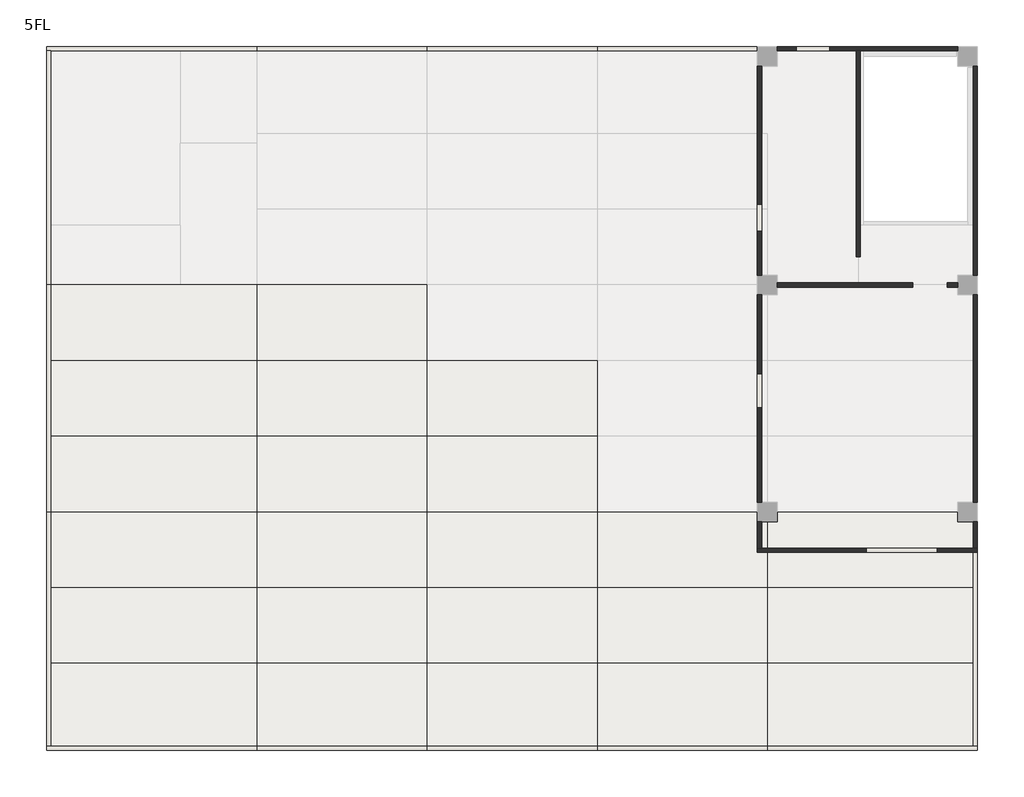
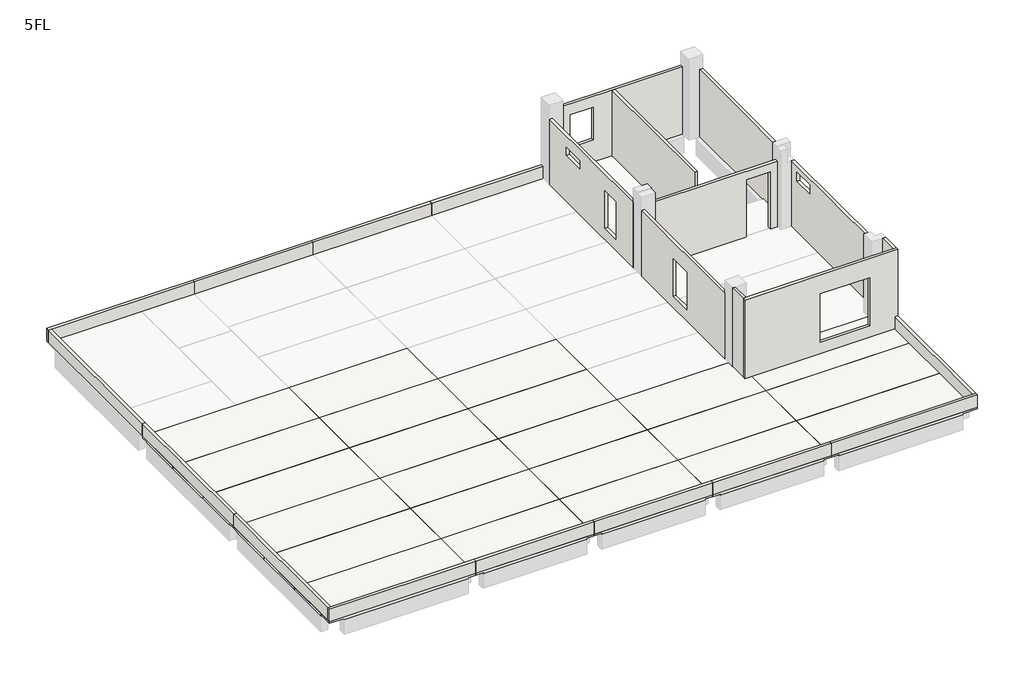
# One storey, part 1 of 3: 23 slabs, 23 walls.
"""IFC4 building model written with IfcOpenShell, lengths in millimetres."""

from ifc_helpers import new_model, si_unit, frame, origin, place, context, project, spatial, polyline, outline, extrude, faceted_brep, element, save

model = new_model("IFC4")

# Units and contexts
model_context = context("Model", 3, world=origin())
ifc_project = project(units=[si_unit("LENGTHUNIT", "METRE", prefix="MILLI")], contexts=[model_context])

# Site, building, storey
site = spatial("IfcSite", under=ifc_project)
building = spatial("IfcBuilding", under=site)
storey = spatial("IfcBuildingStorey", under=building, Name="5FL", Elevation=16400.0)

# Slabs
placement = place(None, origin())
element("IfcSlab", 1, ObjectType="S2", at=placement, inside=storey, context=model_context, shape_type="Brep", body=[
    faceted_brep([(-400.0, 2664.0, 16240.0), (7000.0, 2664.0, 16240.0), (7000.0, 2485.0, 16240.0), (7000.0, 350.0, 16240.0), (6625.0, 350.0, 16240.0), (6625.0, -50.0, 16240.0), (6625.0, -400.0, 16240.0), (350.0, -400.0, 16240.0), (350.0, -50.0, 16240.0), (350.0, 350.0, 16240.0), (-50.0, 350.0, 16240.0), (-400.0, 350.0, 16240.0), (-400.0, -400.0, 16390.0), (7000.0, -400.0, 16390.0), (7000.0, -250.0, 16390.0), (7000.0, 2664.0, 16390.0), (-400.0, 2664.0, 16390.0), (-400.0, -250.0, 16390.0), (-400.0, -400.0, 16300.0), (350.0, -400.0, 16300.0), (6625.0, -400.0, 16300.0), (7000.0, -400.0, 16300.0), (-400.0, 350.0, 16300.0), (7000.0, 2664.0, 16300.0), (7000.0, 350.0, 16300.0), (350.0, 350.0, 16300.0), (6625.0, 350.0, 16300.0)], [[[0, 1, 2, 3, 4, 5, 6, 7, 8, 9, 10, 11]], [[12, 13, 14, 15, 16, 17]], [[13, 12, 18, 19, 7, 6, 20, 21]], [[12, 17, 16, 0, 11, 22, 18]], [[1, 0, 16, 15, 23]], [[15, 14, 13, 21, 24, 3, 2, 1, 23]], [[19, 25, 9, 8, 7]], [[25, 22, 11, 10, 9]], [[25, 19, 18, 22]], [[26, 20, 6, 5, 4]], [[26, 4, 3, 24]], [[20, 26, 24, 21]]]),
])
element("IfcSlab", 2, ObjectType="S2", at=placement, inside=storey, context=model_context, shape_type="Brep", body=[
    faceted_brep([(7000.0, 5328.0, 16240.0), (7000.0, 5155.0, 16240.0), (7000.0, 2835.0, 16240.0), (7000.0, 2664.0, 16240.0), (6825.0, 2664.0, 16240.0), (-400.0, 2664.0, 16240.0), (-400.0, 5328.0, 16240.0), (7000.0, 5328.0, 16390.0), (-400.0, 5328.0, 16390.0), (-400.0, 2664.0, 16390.0), (7000.0, 2664.0, 16390.0), (7000.0, 5328.0, 16300.0), (7000.0, 2664.0, 16300.0)], [[[0, 1, 2, 3, 4, 5, 6]], [[7, 8, 9, 10]], [[3, 2, 1, 0, 11, 7, 10, 12]], [[5, 4, 3, 12, 10, 9]], [[6, 5, 9, 8]], [[0, 6, 8, 7, 11]]]),
])
element("IfcSlab", 3, ObjectType="S2", at=placement, inside=storey, context=model_context, shape_type="Brep", body=[
    faceted_brep([(7000.0, 5328.0, 16240.0), (-400.0, 5328.0, 16240.0), (-400.0, 7625.0, 16240.0), (-50.0, 7625.0, 16240.0), (350.0, 7625.0, 16240.0), (350.0, 8000.0, 16240.0), (6625.0, 8000.0, 16240.0), (6625.0, 7825.0, 16240.0), (6625.0, 7625.0, 16240.0), (6825.0, 7625.0, 16240.0), (7000.0, 7625.0, 16240.0), (7000.0, 5505.0, 16240.0), (7000.0, 5328.0, 16390.0), (7000.0, 8000.0, 16390.0), (-250.0, 8000.0, 16390.0), (-400.0, 8000.0, 16390.0), (-400.0, 5328.0, 16390.0), (7000.0, 5328.0, 16300.0), (7000.0, 7625.0, 16300.0), (7000.0, 8000.0, 16300.0), (-400.0, 8000.0, 16300.0), (-400.0, 7625.0, 16300.0), (6625.0, 8000.0, 16300.0), (350.0, 8000.0, 16300.0), (350.0, 7625.0, 16300.0), (6625.0, 7625.0, 16300.0)], [[[0, 1, 2, 3, 4, 5, 6, 7, 8, 9, 10, 11]], [[12, 13, 14, 15, 16]], [[13, 12, 17, 0, 11, 10, 18, 19]], [[1, 0, 17, 12, 16]], [[16, 15, 20, 21, 2, 1]], [[15, 14, 13, 19, 22, 6, 5, 23, 20]], [[4, 24, 23, 5]], [[21, 24, 4, 3, 2]], [[24, 21, 20, 23]], [[8, 25, 18, 10, 9]], [[25, 8, 7, 6, 22]], [[18, 25, 22, 19]]]),
])
element("IfcSlab", 4, ObjectType="S2", at=placement, inside=storey, context=model_context, shape_type="Brep", body=[
    faceted_brep([(7375.0, -400.0, 16240.0), (7375.0, -50.0, 16240.0), (7375.0, 350.0, 16240.0), (7000.0, 350.0, 16240.0), (7000.0, 2485.0, 16240.0), (13000.0, 2485.0, 16240.0), (13000.0, 350.0, 16240.0), (12625.0, 350.0, 16240.0), (12625.0, -50.0, 16240.0), (12625.0, -400.0, 16240.0), (7000.0, -400.0, 16390.0), (13000.0, -400.0, 16390.0), (13000.0, -250.0, 16390.0), (13000.0, 2664.0, 16390.0), (7000.0, 2664.0, 16390.0), (7000.0, -250.0, 16390.0), (7000.0, -400.0, 16300.0), (7375.0, -400.0, 16300.0), (12625.0, -400.0, 16300.0), (13000.0, -400.0, 16300.0), (7000.0, 2664.0, 16300.0), (7000.0, 2485.0, 16300.0), (7000.0, 350.0, 16300.0), (13000.0, 2664.0, 16300.0), (13000.0, 350.0, 16300.0), (13000.0, 2485.0, 16300.0), (7375.0, 350.0, 16300.0), (12625.0, 350.0, 16300.0), (7175.0, 2485.0, 16300.0), (12825.0, 2485.0, 16300.0)], [[[0, 1, 2, 3, 4, 5, 6, 7, 8, 9]], [[10, 11, 12, 13, 14, 15]], [[11, 10, 16, 17, 0, 9, 18, 19]], [[10, 15, 14, 20, 21, 4, 3, 22, 16]], [[14, 13, 23, 20]], [[13, 12, 11, 19, 24, 6, 5, 25, 23]], [[17, 26, 2, 1, 0]], [[2, 26, 22, 3]], [[26, 17, 16, 22]], [[27, 18, 9, 8, 7]], [[27, 7, 6, 24]], [[18, 27, 24, 19]], [[21, 28, 29, 25, 5, 4]], [[25, 29, 28, 21, 20, 23]]]),
])
element("IfcSlab", 5, ObjectType="S2", at=placement, inside=storey, context=model_context, shape_type="Brep", body=[
    faceted_brep([(13000.0, 2835.0, 16240.0), (7000.0, 2835.0, 16240.0), (7000.0, 5155.0, 16240.0), (13000.0, 5155.0, 16240.0), (13000.0, 2664.0, 16390.0), (13000.0, 5328.0, 16390.0), (7000.0, 5328.0, 16390.0), (7000.0, 2664.0, 16390.0), (13000.0, 2664.0, 16300.0), (13000.0, 2835.0, 16300.0), (13000.0, 5155.0, 16300.0), (13000.0, 5328.0, 16300.0), (7000.0, 2664.0, 16300.0), (7000.0, 5328.0, 16300.0), (7000.0, 5155.0, 16300.0), (7000.0, 2835.0, 16300.0), (12825.0, 2835.0, 16300.0), (7175.0, 2835.0, 16300.0), (7175.0, 5155.0, 16300.0), (12825.0, 5155.0, 16300.0)], [[[0, 1, 2, 3]], [[4, 5, 6, 7]], [[5, 4, 8, 9, 0, 3, 10, 11]], [[4, 7, 12, 8]], [[7, 6, 13, 14, 2, 1, 15, 12]], [[6, 5, 11, 13]], [[1, 0, 9, 16, 17, 15]], [[14, 18, 19, 10, 3, 2]], [[9, 8, 12, 15, 17, 16]], [[10, 19, 18, 14, 13, 11]]]),
])
element("IfcSlab", 6, ObjectType="S2", at=placement, inside=storey, context=model_context, shape_type="Brep", body=[
    faceted_brep([(7375.0, 7625.0, 16240.0), (7375.0, 8000.0, 16240.0), (12625.0, 8000.0, 16240.0), (12625.0, 7625.0, 16240.0), (12825.0, 7625.0, 16240.0), (13000.0, 7625.0, 16240.0), (13000.0, 5505.0, 16240.0), (7000.0, 5505.0, 16240.0), (7000.0, 7625.0, 16240.0), (7175.0, 7625.0, 16240.0), (13000.0, 5328.0, 16390.0), (13000.0, 8000.0, 16390.0), (7000.0, 8000.0, 16390.0), (7000.0, 5328.0, 16390.0), (13000.0, 5328.0, 16300.0), (13000.0, 5505.0, 16300.0), (13000.0, 7625.0, 16300.0), (13000.0, 8000.0, 16300.0), (7000.0, 5328.0, 16300.0), (7000.0, 8000.0, 16300.0), (7000.0, 7625.0, 16300.0), (7000.0, 5505.0, 16300.0), (12625.0, 8000.0, 16300.0), (7375.0, 8000.0, 16300.0), (7375.0, 7625.0, 16300.0), (12625.0, 7625.0, 16300.0), (12825.0, 5505.0, 16300.0), (7175.0, 5505.0, 16300.0)], [[[0, 1, 2, 3, 4, 5, 6, 7, 8, 9]], [[10, 11, 12, 13]], [[11, 10, 14, 15, 6, 5, 16, 17]], [[10, 13, 18, 14]], [[13, 12, 19, 20, 8, 7, 21, 18]], [[12, 11, 17, 22, 2, 1, 23, 19]], [[0, 24, 23, 1]], [[24, 0, 9, 8, 20]], [[23, 24, 20, 19]], [[3, 25, 16, 5, 4]], [[25, 3, 2, 22]], [[16, 25, 22, 17]], [[15, 26, 27, 21, 7, 6]], [[21, 27, 26, 15, 14, 18]]]),
])
element("IfcSlab", 7, ObjectType="S2", at=placement, inside=storey, context=model_context, shape_type="Brep", body=[
    faceted_brep([(13375.0, -400.0, 16240.0), (13375.0, -50.0, 16240.0), (13375.0, 350.0, 16240.0), (13000.0, 350.0, 16240.0), (13000.0, 2485.0, 16240.0), (19000.0, 2485.0, 16240.0), (19000.0, 350.0, 16240.0), (18625.0, 350.0, 16240.0), (18625.0, -50.0, 16240.0), (18625.0, -400.0, 16240.0), (13000.0, -400.0, 16390.0), (19000.0, -400.0, 16390.0), (19000.0, -250.0, 16390.0), (19000.0, 2664.0, 16390.0), (13000.0, 2664.0, 16390.0), (13000.0, -250.0, 16390.0), (13000.0, -400.0, 16300.0), (13375.0, -400.0, 16300.0), (18625.0, -400.0, 16300.0), (19000.0, -400.0, 16300.0), (13000.0, 2664.0, 16300.0), (13000.0, 2485.0, 16300.0), (13000.0, 350.0, 16300.0), (19000.0, 2664.0, 16300.0), (19000.0, 350.0, 16300.0), (19000.0, 2485.0, 16300.0), (13375.0, 350.0, 16300.0), (18625.0, 350.0, 16300.0), (13175.0, 2485.0, 16300.0), (18825.0, 2485.0, 16300.0)], [[[0, 1, 2, 3, 4, 5, 6, 7, 8, 9]], [[10, 11, 12, 13, 14, 15]], [[11, 10, 16, 17, 0, 9, 18, 19]], [[10, 15, 14, 20, 21, 4, 3, 22, 16]], [[14, 13, 23, 20]], [[13, 12, 11, 19, 24, 6, 5, 25, 23]], [[17, 26, 2, 1, 0]], [[2, 26, 22, 3]], [[26, 17, 16, 22]], [[27, 18, 9, 8, 7]], [[27, 7, 6, 24]], [[18, 27, 24, 19]], [[21, 28, 29, 25, 5, 4]], [[25, 29, 28, 21, 20, 23]]]),
])
element("IfcSlab", 8, ObjectType="S2", at=placement, inside=storey, context=model_context, shape_type="Brep", body=[
    faceted_brep([(19000.0, 2835.0, 16240.0), (13000.0, 2835.0, 16240.0), (13000.0, 5155.0, 16240.0), (19000.0, 5155.0, 16240.0), (19000.0, 2664.0, 16390.0), (19000.0, 5328.0, 16390.0), (13000.0, 5328.0, 16390.0), (13000.0, 2664.0, 16390.0), (19000.0, 2664.0, 16300.0), (19000.0, 2835.0, 16300.0), (19000.0, 5155.0, 16300.0), (19000.0, 5328.0, 16300.0), (13000.0, 2664.0, 16300.0), (13000.0, 5328.0, 16300.0), (13000.0, 5155.0, 16300.0), (13000.0, 2835.0, 16300.0), (18825.0, 2835.0, 16300.0), (13175.0, 2835.0, 16300.0), (13175.0, 5155.0, 16300.0), (18825.0, 5155.0, 16300.0)], [[[0, 1, 2, 3]], [[4, 5, 6, 7]], [[5, 4, 8, 9, 0, 3, 10, 11]], [[4, 7, 12, 8]], [[7, 6, 13, 14, 2, 1, 15, 12]], [[6, 5, 11, 13]], [[1, 0, 9, 16, 17, 15]], [[14, 18, 19, 10, 3, 2]], [[9, 8, 12, 15, 17, 16]], [[10, 19, 18, 14, 13, 11]]]),
])
element("IfcSlab", 9, ObjectType="S2", at=placement, inside=storey, context=model_context, shape_type="Brep", body=[
    faceted_brep([(13375.0, 7625.0, 16240.0), (13375.0, 7825.0, 16240.0), (13375.0, 8000.0, 16240.0), (18625.0, 8000.0, 16240.0), (18625.0, 7825.0, 16240.0), (18625.0, 7625.0, 16240.0), (18825.0, 7625.0, 16240.0), (19000.0, 7625.0, 16240.0), (19000.0, 5505.0, 16240.0), (13000.0, 5505.0, 16240.0), (13000.0, 7625.0, 16240.0), (13175.0, 7625.0, 16240.0), (19000.0, 5328.0, 16390.0), (19000.0, 8000.0, 16390.0), (13000.0, 8000.0, 16390.0), (13000.0, 5328.0, 16390.0), (19000.0, 5328.0, 16300.0), (19000.0, 5505.0, 16300.0), (19000.0, 7625.0, 16300.0), (19000.0, 8000.0, 16300.0), (13000.0, 5328.0, 16300.0), (13000.0, 8000.0, 16300.0), (13000.0, 7625.0, 16300.0), (13000.0, 5505.0, 16300.0), (18625.0, 8000.0, 16300.0), (13375.0, 8000.0, 16300.0), (13375.0, 7625.0, 16300.0), (18625.0, 7625.0, 16300.0), (18825.0, 5505.0, 16300.0), (13175.0, 5505.0, 16300.0)], [[[0, 1, 2, 3, 4, 5, 6, 7, 8, 9, 10, 11]], [[12, 13, 14, 15]], [[13, 12, 16, 17, 8, 7, 18, 19]], [[12, 15, 20, 16]], [[15, 14, 21, 22, 10, 9, 23, 20]], [[14, 13, 19, 24, 3, 2, 25, 21]], [[0, 26, 25, 2, 1]], [[26, 0, 11, 10, 22]], [[25, 26, 22, 21]], [[5, 27, 18, 7, 6]], [[27, 5, 4, 3, 24]], [[18, 27, 24, 19]], [[17, 28, 29, 23, 9, 8]], [[23, 29, 28, 17, 16, 20]]]),
])
element("IfcSlab", 10, ObjectType="S2", at=placement, inside=storey, context=model_context, shape_type="Brep", body=[
    faceted_brep([(19375.0, -400.0, 16240.0), (19375.0, -50.0, 16240.0), (19375.0, 350.0, 16240.0), (19000.0, 350.0, 16240.0), (19000.0, 2485.0, 16240.0), (25000.0, 2485.0, 16240.0), (25000.0, 350.0, 16240.0), (24625.0, 350.0, 16240.0), (24625.0, -50.0, 16240.0), (24625.0, -400.0, 16240.0), (19000.0, -400.0, 16390.0), (25000.0, -400.0, 16390.0), (25000.0, -250.0, 16390.0), (25000.0, 2664.0, 16390.0), (19000.0, 2664.0, 16390.0), (19000.0, -250.0, 16390.0), (19000.0, -400.0, 16300.0), (19375.0, -400.0, 16300.0), (24625.0, -400.0, 16300.0), (25000.0, -400.0, 16300.0), (19000.0, 2664.0, 16300.0), (19000.0, 2485.0, 16300.0), (19000.0, 350.0, 16300.0), (25000.0, 2664.0, 16300.0), (25000.0, 350.0, 16300.0), (25000.0, 2485.0, 16300.0), (19375.0, 350.0, 16300.0), (24625.0, 350.0, 16300.0), (19175.0, 2485.0, 16300.0), (24825.0, 2485.0, 16300.0)], [[[0, 1, 2, 3, 4, 5, 6, 7, 8, 9]], [[10, 11, 12, 13, 14, 15]], [[11, 10, 16, 17, 0, 9, 18, 19]], [[10, 15, 14, 20, 21, 4, 3, 22, 16]], [[14, 13, 23, 20]], [[13, 12, 11, 19, 24, 6, 5, 25, 23]], [[17, 26, 2, 1, 0]], [[2, 26, 22, 3]], [[26, 17, 16, 22]], [[27, 18, 9, 8, 7]], [[27, 7, 6, 24]], [[18, 27, 24, 19]], [[21, 28, 29, 25, 5, 4]], [[25, 29, 28, 21, 20, 23]]]),
])
element("IfcSlab", 11, ObjectType="S2", at=placement, inside=storey, context=model_context, shape_type="Brep", body=[
    faceted_brep([(25000.0, 2835.0, 16240.0), (19000.0, 2835.0, 16240.0), (19000.0, 5155.0, 16240.0), (25000.0, 5155.0, 16240.0), (25000.0, 2664.0, 16390.0), (25000.0, 5328.0, 16390.0), (19000.0, 5328.0, 16390.0), (19000.0, 2664.0, 16390.0), (25000.0, 2664.0, 16300.0), (25000.0, 2835.0, 16300.0), (25000.0, 5155.0, 16300.0), (25000.0, 5328.0, 16300.0), (19000.0, 2664.0, 16300.0), (19000.0, 5328.0, 16300.0), (19000.0, 5155.0, 16300.0), (19000.0, 2835.0, 16300.0), (24825.0, 2835.0, 16300.0), (19175.0, 2835.0, 16300.0), (19175.0, 5155.0, 16300.0), (24825.0, 5155.0, 16300.0)], [[[0, 1, 2, 3]], [[4, 5, 6, 7]], [[5, 4, 8, 9, 0, 3, 10, 11]], [[4, 7, 12, 8]], [[7, 6, 13, 14, 2, 1, 15, 12]], [[6, 5, 11, 13]], [[1, 0, 9, 16, 17, 15]], [[14, 18, 19, 10, 3, 2]], [[9, 8, 12, 15, 17, 16]], [[10, 19, 18, 14, 13, 11]]]),
])
element("IfcSlab", 12, ObjectType="S2", at=placement, inside=storey, context=model_context, shape_type="Brep", body=[
    faceted_brep([(19375.0, 7625.0, 16240.0), (19375.0, 7825.0, 16240.0), (19375.0, 8000.0, 16240.0), (24625.0, 8000.0, 16240.0), (24625.0, 7825.0, 16240.0), (24625.0, 7625.0, 16240.0), (24825.0, 7625.0, 16240.0), (25000.0, 7625.0, 16240.0), (25000.0, 5505.0, 16240.0), (19000.0, 5505.0, 16240.0), (19000.0, 7625.0, 16240.0), (19175.0, 7625.0, 16240.0), (25000.0, 5328.0, 16390.0), (25000.0, 8000.0, 16390.0), (19000.0, 8000.0, 16390.0), (19000.0, 5328.0, 16390.0), (25000.0, 5328.0, 16300.0), (25000.0, 5505.0, 16300.0), (25000.0, 7625.0, 16300.0), (25000.0, 8000.0, 16300.0), (19000.0, 5328.0, 16300.0), (19000.0, 8000.0, 16300.0), (19000.0, 7625.0, 16300.0), (19000.0, 5505.0, 16300.0), (24625.0, 8000.0, 16300.0), (19375.0, 8000.0, 16300.0), (19375.0, 7625.0, 16300.0), (24625.0, 7625.0, 16300.0), (24825.0, 5505.0, 16300.0), (19175.0, 5505.0, 16300.0)], [[[0, 1, 2, 3, 4, 5, 6, 7, 8, 9, 10, 11]], [[12, 13, 14, 15]], [[13, 12, 16, 17, 8, 7, 18, 19]], [[12, 15, 20, 16]], [[15, 14, 21, 22, 10, 9, 23, 20]], [[14, 13, 19, 24, 3, 2, 25, 21]], [[0, 26, 25, 2, 1]], [[26, 0, 11, 10, 22]], [[25, 26, 22, 21]], [[5, 27, 18, 7, 6]], [[27, 5, 4, 3, 24]], [[18, 27, 24, 19]], [[17, 28, 29, 23, 9, 8]], [[23, 29, 28, 17, 16, 20]]]),
])
element("IfcSlab", 13, ObjectType="S2", at=placement, inside=storey, context=model_context, shape_type="Brep", body=[
    faceted_brep([(25000.0, 2664.0, 16240.0), (32400.0, 2664.0, 16240.0), (32400.0, 350.0, 16240.0), (32050.0, 350.0, 16240.0), (31650.0, 350.0, 16240.0), (31650.0, -50.0, 16240.0), (31650.0, -400.0, 16240.0), (25375.0, -400.0, 16240.0), (25375.0, -50.0, 16240.0), (25375.0, 350.0, 16240.0), (25000.0, 350.0, 16240.0), (25000.0, 2485.0, 16240.0), (25000.0, -400.0, 16390.0), (32400.0, -400.0, 16390.0), (32400.0, -250.0, 16390.0), (32400.0, 2664.0, 16390.0), (25000.0, 2664.0, 16390.0), (25000.0, -250.0, 16390.0), (25000.0, -400.0, 16300.0), (25375.0, -400.0, 16300.0), (31650.0, -400.0, 16300.0), (32400.0, -400.0, 16300.0), (25000.0, 2664.0, 16300.0), (25000.0, 350.0, 16300.0), (32400.0, 350.0, 16300.0), (25375.0, 350.0, 16300.0), (31650.0, 350.0, 16300.0)], [[[0, 1, 2, 3, 4, 5, 6, 7, 8, 9, 10, 11]], [[12, 13, 14, 15, 16, 17]], [[13, 12, 18, 19, 7, 6, 20, 21]], [[12, 17, 16, 22, 0, 11, 10, 23, 18]], [[1, 0, 22, 16, 15]], [[15, 14, 13, 21, 24, 2, 1]], [[19, 25, 9, 8, 7]], [[9, 25, 23, 10]], [[25, 19, 18, 23]], [[26, 20, 6, 5, 4]], [[24, 26, 4, 3, 2]], [[20, 26, 24, 21]]]),
])
element("IfcSlab", 14, ObjectType="S2", at=placement, inside=storey, context=model_context, shape_type="Brep", body=[
    faceted_brep([(32400.0, 5328.0, 16240.0), (32400.0, 2664.0, 16240.0), (25175.0, 2664.0, 16240.0), (25000.0, 2664.0, 16240.0), (25000.0, 2835.0, 16240.0), (25000.0, 5155.0, 16240.0), (25000.0, 5328.0, 16240.0), (32400.0, 5328.0, 16390.0), (25000.0, 5328.0, 16390.0), (25000.0, 2664.0, 16390.0), (32400.0, 2664.0, 16390.0), (25000.0, 2664.0, 16300.0), (25000.0, 5328.0, 16300.0)], [[[0, 1, 2, 3, 4, 5, 6]], [[7, 8, 9, 10]], [[1, 0, 7, 10]], [[3, 2, 1, 10, 9, 11]], [[6, 5, 4, 3, 11, 9, 8, 12]], [[0, 6, 12, 8, 7]]]),
])
element("IfcSlab", 15, ObjectType="S2", at=placement, inside=storey, context=model_context, shape_type="Brep", body=[
    faceted_brep([(32400.0, 5328.0, 16240.0), (25000.0, 5328.0, 16240.0), (25000.0, 5505.0, 16240.0), (25000.0, 7625.0, 16240.0), (25175.0, 7625.0, 16240.0), (25375.0, 7625.0, 16240.0), (25375.0, 8000.0, 16240.0), (31650.0, 8000.0, 16240.0), (31650.0, 7825.0, 16240.0), (31650.0, 7625.0, 16240.0), (32050.0, 7625.0, 16240.0), (32400.0, 7625.0, 16240.0), (32400.0, 5328.0, 16390.0), (32400.0, 6580.0, 16390.0), (32400.0, 7650.0, 16390.0), (32400.0, 8000.0, 16390.0), (25000.0, 8000.0, 16390.0), (25000.0, 5328.0, 16390.0), (32400.0, 7625.0, 16300.0), (32400.0, 8000.0, 16300.0), (25000.0, 5328.0, 16300.0), (25000.0, 8000.0, 16300.0), (25000.0, 7625.0, 16300.0), (31650.0, 8000.0, 16300.0), (25375.0, 8000.0, 16300.0), (25375.0, 7625.0, 16300.0), (31650.0, 7625.0, 16300.0)], [[[0, 1, 2, 3, 4, 5, 6, 7, 8, 9, 10, 11]], [[12, 13, 14, 15, 16, 17]], [[15, 14, 13, 12, 0, 11, 18, 19]], [[1, 0, 12, 17, 20]], [[17, 16, 21, 22, 3, 2, 1, 20]], [[16, 15, 19, 23, 7, 6, 24, 21]], [[5, 25, 24, 6]], [[25, 5, 4, 3, 22]], [[24, 25, 22, 21]], [[26, 18, 11, 10, 9]], [[26, 9, 8, 7, 23]], [[18, 26, 23, 19]]]),
])
element("IfcSlab", 16, ObjectType="S2", at=placement, inside=storey, context=model_context, shape_type="Brep", body=[
    faceted_brep([(-400.0, 10664.0, 16240.0), (7000.0, 10664.0, 16240.0), (7000.0, 10575.0, 16240.0), (7000.0, 8375.0, 16240.0), (6625.0, 8375.0, 16240.0), (6625.0, 8175.0, 16240.0), (6625.0, 8000.0, 16240.0), (350.0, 8000.0, 16240.0), (350.0, 8375.0, 16240.0), (-50.0, 8375.0, 16240.0), (-400.0, 8375.0, 16240.0), (-400.0, 8000.0, 16390.0), (-250.0, 8000.0, 16390.0), (7000.0, 8000.0, 16390.0), (7000.0, 10664.0, 16390.0), (-400.0, 10664.0, 16390.0), (-400.0, 8000.0, 16300.0), (350.0, 8000.0, 16300.0), (6625.0, 8000.0, 16300.0), (7000.0, 8000.0, 16300.0), (-400.0, 8375.0, 16300.0), (7000.0, 10664.0, 16300.0), (7000.0, 8375.0, 16300.0), (350.0, 8375.0, 16300.0), (6625.0, 8375.0, 16300.0)], [[[0, 1, 2, 3, 4, 5, 6, 7, 8, 9, 10]], [[11, 12, 13, 14, 15]], [[13, 12, 11, 16, 17, 7, 6, 18, 19]], [[11, 15, 0, 10, 20, 16]], [[1, 0, 15, 14, 21]], [[14, 13, 19, 22, 3, 2, 1, 21]], [[23, 8, 7, 17]], [[23, 20, 10, 9, 8]], [[20, 23, 17, 16]], [[4, 24, 18, 6, 5]], [[24, 4, 3, 22]], [[18, 24, 22, 19]]]),
])
element("IfcSlab", 17, ObjectType="S2", at=placement, inside=storey, context=model_context, shape_type="Brep", body=[
    faceted_brep([(7000.0, 13328.0, 16240.0), (7000.0, 13325.0, 16240.0), (7000.0, 10925.0, 16240.0), (7000.0, 10664.0, 16240.0), (6825.0, 10664.0, 16240.0), (-400.0, 10664.0, 16240.0), (-400.0, 13328.0, 16240.0), (7000.0, 13328.0, 16390.0), (-400.0, 13328.0, 16390.0), (-400.0, 10664.0, 16390.0), (7000.0, 10664.0, 16390.0), (7000.0, 13328.0, 16300.0), (7000.0, 10664.0, 16300.0)], [[[0, 1, 2, 3, 4, 5, 6]], [[7, 8, 9, 10]], [[3, 2, 1, 0, 11, 7, 10, 12]], [[5, 4, 3, 12, 10, 9]], [[6, 5, 9, 8]], [[0, 6, 8, 7, 11]]]),
])
element("IfcSlab", 18, ObjectType="S2", at=placement, inside=storey, context=model_context, shape_type="Brep", body=[
    faceted_brep([(7000.0, 13328.0, 16240.0), (-400.0, 13328.0, 16240.0), (-400.0, 15625.0, 16240.0), (-50.0, 15625.0, 16240.0), (350.0, 15625.0, 16240.0), (350.0, 16000.0, 16240.0), (4319.0, 16000.0, 16240.0), (6625.0, 16000.0, 16240.0), (6625.0, 15825.0, 16240.0), (6625.0, 15625.0, 16240.0), (6825.0, 15625.0, 16240.0), (7000.0, 15625.0, 16240.0), (7000.0, 13675.0, 16240.0), (7000.0, 13328.0, 16390.0), (7000.0, 16000.0, 16390.0), (4319.0, 16000.0, 16390.0), (-250.0, 16000.0, 16390.0), (-400.0, 16000.0, 16390.0), (-400.0, 13328.0, 16390.0), (7000.0, 13328.0, 16300.0), (7000.0, 15625.0, 16300.0), (7000.0, 16000.0, 16300.0), (-400.0, 16000.0, 16300.0), (-400.0, 15625.0, 16300.0), (6625.0, 16000.0, 16300.0), (350.0, 16000.0, 16300.0), (350.0, 15625.0, 16300.0), (6625.0, 15625.0, 16300.0)], [[[0, 1, 2, 3, 4, 5, 6, 7, 8, 9, 10, 11, 12]], [[13, 14, 15, 16, 17, 18]], [[14, 13, 19, 0, 12, 11, 20, 21]], [[1, 0, 19, 13, 18]], [[18, 17, 22, 23, 2, 1]], [[17, 16, 15, 14, 21, 24, 7, 6, 5, 25, 22]], [[4, 26, 25, 5]], [[23, 26, 4, 3, 2]], [[26, 23, 22, 25]], [[9, 27, 20, 11, 10]], [[27, 9, 8, 7, 24]], [[20, 27, 24, 21]]]),
])
element("IfcSlab", 19, ObjectType="S2", at=placement, inside=storey, context=model_context, shape_type="Brep", body=[
    faceted_brep([(7375.0, 8000.0, 16240.0), (7375.0, 8175.0, 16240.0), (7375.0, 8375.0, 16240.0), (7175.0, 8375.0, 16240.0), (7000.0, 8375.0, 16240.0), (7000.0, 10575.0, 16240.0), (13000.0, 10575.0, 16240.0), (13000.0, 8375.0, 16240.0), (12625.0, 8375.0, 16240.0), (12625.0, 8175.0, 16240.0), (12625.0, 8000.0, 16240.0), (7000.0, 8000.0, 16390.0), (13000.0, 8000.0, 16390.0), (13000.0, 10664.0, 16390.0), (7000.0, 10664.0, 16390.0), (7000.0, 8000.0, 16300.0), (7375.0, 8000.0, 16300.0), (12625.0, 8000.0, 16300.0), (13000.0, 8000.0, 16300.0), (7000.0, 10664.0, 16300.0), (7000.0, 10575.0, 16300.0), (7000.0, 8375.0, 16300.0), (13000.0, 10664.0, 16300.0), (13000.0, 8375.0, 16300.0), (13000.0, 10575.0, 16300.0), (7375.0, 8375.0, 16300.0), (12625.0, 8375.0, 16300.0), (7175.0, 10575.0, 16300.0), (12825.0, 10575.0, 16300.0)], [[[0, 1, 2, 3, 4, 5, 6, 7, 8, 9, 10]], [[11, 12, 13, 14]], [[12, 11, 15, 16, 0, 10, 17, 18]], [[11, 14, 19, 20, 5, 4, 21, 15]], [[14, 13, 22, 19]], [[13, 12, 18, 23, 7, 6, 24, 22]], [[25, 2, 1, 0, 16]], [[2, 25, 21, 4, 3]], [[25, 16, 15, 21]], [[8, 26, 17, 10, 9]], [[26, 8, 7, 23]], [[17, 26, 23, 18]], [[20, 27, 28, 24, 6, 5]], [[24, 28, 27, 20, 19, 22]]]),
])
element("IfcSlab", 20, ObjectType="S2", at=placement, inside=storey, context=model_context, shape_type="Brep", body=[
    faceted_brep([(13000.0, 10925.0, 16240.0), (7000.0, 10925.0, 16240.0), (7000.0, 13325.0, 16240.0), (13000.0, 13325.0, 16240.0), (13000.0, 10664.0, 16390.0), (13000.0, 13328.0, 16390.0), (7000.0, 13328.0, 16390.0), (7000.0, 10664.0, 16390.0), (13000.0, 10664.0, 16300.0), (13000.0, 10925.0, 16300.0), (13000.0, 13325.0, 16300.0), (13000.0, 13328.0, 16300.0), (7000.0, 10664.0, 16300.0), (7000.0, 13328.0, 16300.0), (7000.0, 13325.0, 16300.0), (7000.0, 10925.0, 16300.0), (12825.0, 10925.0, 16300.0), (7175.0, 10925.0, 16300.0), (7175.0, 13325.0, 16300.0), (12825.0, 13325.0, 16300.0)], [[[0, 1, 2, 3]], [[4, 5, 6, 7]], [[5, 4, 8, 9, 0, 3, 10, 11]], [[4, 7, 12, 8]], [[7, 6, 13, 14, 2, 1, 15, 12]], [[6, 5, 11, 13]], [[1, 0, 9, 16, 17, 15]], [[14, 18, 19, 10, 3, 2]], [[9, 8, 12, 15, 17, 16]], [[10, 19, 18, 14, 13, 11]]]),
])
element("IfcSlab", 21, ObjectType="S2", at=placement, inside=storey, context=model_context, shape_type="Brep", body=[
    faceted_brep([(7375.0, 15625.0, 16240.0), (7375.0, 16000.0, 16240.0), (12625.0, 16000.0, 16240.0), (12625.0, 15625.0, 16240.0), (12825.0, 15625.0, 16240.0), (13000.0, 15625.0, 16240.0), (13000.0, 13675.0, 16240.0), (7000.0, 13675.0, 16240.0), (7000.0, 15625.0, 16240.0), (7175.0, 15625.0, 16240.0), (13000.0, 13328.0, 16390.0), (13000.0, 16000.0, 16390.0), (7000.0, 16000.0, 16390.0), (7000.0, 13328.0, 16390.0), (13000.0, 13328.0, 16300.0), (13000.0, 13675.0, 16300.0), (13000.0, 15625.0, 16300.0), (13000.0, 16000.0, 16300.0), (7000.0, 13328.0, 16300.0), (7000.0, 16000.0, 16300.0), (7000.0, 15625.0, 16300.0), (7000.0, 13675.0, 16300.0), (12625.0, 16000.0, 16300.0), (7375.0, 16000.0, 16300.0), (7375.0, 15625.0, 16300.0), (12625.0, 15625.0, 16300.0), (12825.0, 13675.0, 16300.0), (7175.0, 13675.0, 16300.0)], [[[0, 1, 2, 3, 4, 5, 6, 7, 8, 9]], [[10, 11, 12, 13]], [[11, 10, 14, 15, 6, 5, 16, 17]], [[10, 13, 18, 14]], [[13, 12, 19, 20, 8, 7, 21, 18]], [[12, 11, 17, 22, 2, 1, 23, 19]], [[0, 24, 23, 1]], [[24, 0, 9, 8, 20]], [[23, 24, 20, 19]], [[3, 25, 16, 5, 4]], [[25, 3, 2, 22]], [[16, 25, 22, 17]], [[15, 26, 27, 21, 7, 6]], [[21, 27, 26, 15, 14, 18]]]),
])
element("IfcSlab", 22, ObjectType="S2", at=placement, inside=storey, context=model_context, shape_type="Brep", body=[
    faceted_brep([(13375.0, 8000.0, 16240.0), (13375.0, 8175.0, 16240.0), (13375.0, 8375.0, 16240.0), (13175.0, 8375.0, 16240.0), (13000.0, 8375.0, 16240.0), (13000.0, 10575.0, 16240.0), (19000.0, 10575.0, 16240.0), (19000.0, 8375.0, 16240.0), (18625.0, 8375.0, 16240.0), (18625.0, 8175.0, 16240.0), (18625.0, 8000.0, 16240.0), (13000.0, 8000.0, 16390.0), (19000.0, 8000.0, 16390.0), (19000.0, 10664.0, 16390.0), (13000.0, 10664.0, 16390.0), (13000.0, 8000.0, 16300.0), (13375.0, 8000.0, 16300.0), (18625.0, 8000.0, 16300.0), (19000.0, 8000.0, 16300.0), (13000.0, 10664.0, 16300.0), (13000.0, 10575.0, 16300.0), (13000.0, 8375.0, 16300.0), (19000.0, 10664.0, 16300.0), (19000.0, 8375.0, 16300.0), (19000.0, 10575.0, 16300.0), (13375.0, 8375.0, 16300.0), (18625.0, 8375.0, 16300.0), (13175.0, 10575.0, 16300.0), (18825.0, 10575.0, 16300.0)], [[[0, 1, 2, 3, 4, 5, 6, 7, 8, 9, 10]], [[11, 12, 13, 14]], [[12, 11, 15, 16, 0, 10, 17, 18]], [[11, 14, 19, 20, 5, 4, 21, 15]], [[14, 13, 22, 19]], [[13, 12, 18, 23, 7, 6, 24, 22]], [[25, 2, 1, 0, 16]], [[2, 25, 21, 4, 3]], [[25, 16, 15, 21]], [[8, 26, 17, 10, 9]], [[26, 8, 7, 23]], [[17, 26, 23, 18]], [[20, 27, 28, 24, 6, 5]], [[24, 28, 27, 20, 19, 22]]]),
])
element("IfcSlab", 23, ObjectType="S2", at=placement, inside=storey, context=model_context, shape_type="Brep", body=[
    faceted_brep([(19000.0, 10925.0, 16240.0), (13000.0, 10925.0, 16240.0), (13000.0, 13325.0, 16240.0), (19000.0, 13325.0, 16240.0), (19000.0, 10664.0, 16390.0), (19000.0, 13328.0, 16390.0), (13000.0, 13328.0, 16390.0), (13000.0, 10664.0, 16390.0), (19000.0, 10664.0, 16300.0), (19000.0, 10925.0, 16300.0), (19000.0, 13325.0, 16300.0), (19000.0, 13328.0, 16300.0), (13000.0, 10664.0, 16300.0), (13000.0, 13328.0, 16300.0), (13000.0, 13325.0, 16300.0), (13000.0, 10925.0, 16300.0), (18825.0, 10925.0, 16300.0), (13175.0, 10925.0, 16300.0), (13175.0, 13325.0, 16300.0), (18825.0, 13325.0, 16300.0)], [[[0, 1, 2, 3]], [[4, 5, 6, 7]], [[5, 4, 8, 9, 0, 3, 10, 11]], [[4, 7, 12, 8]], [[7, 6, 13, 14, 2, 1, 15, 12]], [[6, 5, 11, 13]], [[1, 0, 9, 16, 17, 15]], [[14, 18, 19, 10, 3, 2]], [[9, 8, 12, 15, 17, 16]], [[10, 19, 18, 14, 13, 11]]]),
])

# Walls
element("IfcWall", 24, ObjectType="EW15", at=placement, inside=storey, context=model_context, shape_type="Brep", body=[
    faceted_brep([(25350.0, 24400.0, 16390.0), (25350.0, 24400.0, 19900.0), (31700.0, 24400.0, 19900.0), (31700.0, 24400.0, 16300.0), (31650.0, 24400.0, 16300.0), (28374.0, 24400.0, 16300.0), (28374.0, 24400.0, 16390.0), (27190.0, 24400.0, 19320.0), (26010.0, 24400.0, 19320.0), (26010.0, 24400.0, 17565.0), (27190.0, 24400.0, 17565.0), (25350.0, 24250.0, 19900.0), (25350.0, 24250.0, 16390.0), (28125.0, 24250.0, 16390.0), (28275.0, 24250.0, 16390.0), (28374.0, 24250.0, 16390.0), (28374.0, 24250.0, 16300.0), (31700.0, 24250.0, 16300.0), (31700.0, 24250.0, 19900.0), (28275.0, 24250.0, 19900.0), (28125.0, 24250.0, 19900.0), (26010.0, 24250.0, 19320.0), (27190.0, 24250.0, 19320.0), (27190.0, 24250.0, 17565.0), (26010.0, 24250.0, 17565.0)], [[[0, 1, 2, 3, 4, 5, 6], [7, 8, 9, 10]], [[11, 12, 13, 14, 15, 16, 17, 18, 19, 20], [21, 22, 23, 24]], [[16, 5, 4, 3, 17]], [[11, 1, 0, 12]], [[1, 11, 20, 19, 18, 2]], [[6, 15, 14, 13, 12, 0]], [[15, 6, 5, 16]], [[3, 2, 18, 17]], [[7, 22, 21, 8]], [[9, 24, 23, 10]], [[22, 7, 10, 23]], [[8, 21, 24, 9]]]),
])
element("IfcWall", 25, ObjectType="EW15", at=placement, inside=storey, context=model_context, shape_type="Brep", body=[
    faceted_brep([(32250.0, 16350.0, 19900.0), (32250.0, 23700.0, 19900.0), (32250.0, 23700.0, 16300.0), (32250.0, 18100.0, 16300.0), (32250.0, 18100.0, 16390.0), (32250.0, 16350.0, 16390.0), (32400.0, 23700.0, 19900.0), (32400.0, 16350.0, 19900.0), (32400.0, 16350.0, 16390.0), (32400.0, 18100.0, 16390.0), (32400.0, 18100.0, 16300.0), (32400.0, 23650.0, 16300.0), (32400.0, 23700.0, 16300.0)], [[[0, 1, 2, 3, 4, 5]], [[6, 7, 8, 9, 10, 11, 12]], [[2, 12, 11, 10, 3]], [[7, 0, 5, 8]], [[1, 0, 7, 6]], [[2, 1, 6, 12]], [[4, 9, 8, 5]], [[9, 4, 3, 10]]]),
])
element("IfcWall", 26, ObjectType="EW15", at=placement, inside=storey, context=model_context, shape_type="Brep", body=[
    faceted_brep([(32400.0, 6730.0, 16400.0), (32250.0, 6730.0, 16400.0), (24800.0, 6730.0, 16400.0), (24650.0, 6730.0, 16400.0), (24650.0, 6730.0, 20600.0), (24800.0, 6730.0, 20600.0), (32250.0, 6730.0, 20600.0), (32400.0, 6730.0, 20600.0), (30985.0, 6730.0, 19585.0), (28485.0, 6730.0, 19585.0), (28485.0, 6730.0, 17000.0), (30985.0, 6730.0, 17000.0), (24650.0, 6580.0, 16400.0), (32400.0, 6580.0, 16400.0), (32400.0, 6580.0, 17050.0), (32400.0, 6580.0, 20600.0), (24650.0, 6580.0, 20600.0), (28485.0, 6580.0, 19585.0), (30985.0, 6580.0, 19585.0), (30985.0, 6580.0, 17000.0), (28485.0, 6580.0, 17000.0)], [[[0, 1, 2, 3, 4, 5, 6, 7], [8, 9, 10, 11]], [[12, 13, 14, 15, 16], [17, 18, 19, 20]], [[3, 2, 1, 0, 13, 12]], [[7, 6, 5, 4, 16, 15]], [[4, 3, 12, 16]], [[0, 7, 15, 14, 13]], [[8, 18, 17, 9]], [[10, 20, 19, 11]], [[18, 8, 11, 19]], [[9, 17, 20, 10]]]),
])
element("IfcWall", 27, ObjectType="EW15", at=placement, inside=storey, context=model_context, shape_type="SweptSolid", body=[
    extrude(outline(polyline([(23700.0, 19900.0), (23700.0, 16400.0), (16350.0, 16400.0), (16350.0, 19900.0), (23700.0, 19900.0)]), holes=[polyline([(18850.0, 19000.0), (17900.0, 19000.0), (17900.0, 17000.0), (18850.0, 17000.0), (18850.0, 19000.0)]), polyline([(22225.0, 19285.0), (21045.0, 19285.0), (21045.0, 18865.0), (22225.0, 18865.0), (22225.0, 19285.0)])]), frame((24650.0, 0.0, 0.0), z_axis=(1.0, 0.0, 0.0), x_axis=(0.0, 1.0, 0.0)), (0.0, 0.0, 1.0), 150.0),
])
element("IfcWall", 28, ObjectType="EW15", at=placement, inside=storey, context=model_context, shape_type="SweptSolid", body=[
    extrude(outline(polyline([(8350.0, 16400.0), (8350.0, 19900.0), (15650.0, 19900.0), (15650.0, 16400.0), (8350.0, 16400.0)]), holes=[polyline([(12865.0, 19000.0), (11665.0, 19000.0), (11665.0, 17000.0), (12865.0, 17000.0), (12865.0, 19000.0)])]), frame((24650.0, 0.0, 0.0), z_axis=(1.0, 0.0, 0.0), x_axis=(0.0, 1.0, 0.0)), (0.0, 0.0, 1.0), 150.0),
])
element("IfcWall", 29, ObjectType="EW15", at=placement, inside=storey, context=model_context, shape_type="Brep", body=[
    faceted_brep([(32250.0, 8350.0, 19900.0), (32250.0, 15650.0, 19900.0), (32250.0, 15650.0, 16390.0), (32250.0, 8350.0, 16390.0), (32250.0, 15177.5, 19570.0), (32250.0, 14057.5, 19570.0), (32250.0, 14057.5, 19085.0), (32250.0, 15177.5, 19085.0), (32400.0, 15650.0, 19900.0), (32400.0, 8350.0, 19900.0), (32400.0, 8350.0, 16390.0), (32400.0, 10664.0, 16390.0), (32400.0, 13328.0, 16390.0), (32400.0, 15650.0, 16390.0), (32400.0, 14057.5, 19570.0), (32400.0, 15177.5, 19570.0), (32400.0, 15177.5, 19085.0), (32400.0, 14057.5, 19085.0)], [[[0, 1, 2, 3], [4, 5, 6, 7]], [[8, 9, 10, 11, 12, 13], [14, 15, 16, 17]], [[9, 0, 3, 10]], [[1, 0, 9, 8]], [[1, 8, 13, 2]], [[2, 13, 12, 11, 10, 3]], [[4, 15, 14, 5]], [[6, 17, 16, 7]], [[15, 4, 7, 16]], [[5, 14, 17, 6]]]),
])
element("IfcWall", 30, ObjectType="EW15", at=placement, inside=storey, context=model_context, shape_type="SweptSolid", body=[
    extrude(outline(polyline([(24650.0, 6730.0), (24650.0, 7650.0), (24800.0, 7650.0), (24800.0, 6730.0), (24650.0, 6730.0)])), frame((0.0, 0.0, 16400.0), z_axis=(0.0, 0.0, 1.0), x_axis=(1.0, 0.0, 0.0)), (0.0, 0.0, 1.0), 4200.0),
])
element("IfcWall", 31, ObjectType="EW15", at=placement, inside=storey, context=model_context, shape_type="SweptSolid", body=[
    extrude(outline(polyline([(32250.0, 6730.0), (32250.0, 7650.0), (32400.0, 7650.0), (32400.0, 6730.0), (32250.0, 6730.0)])), frame((0.0, 0.0, 16400.0), z_axis=(0.0, 0.0, 1.0), x_axis=(1.0, 0.0, 0.0)), (0.0, 0.0, 1.0), 4200.0),
])
element("IfcWall", 32, ObjectType="W15", at=placement, inside=storey, context=model_context, shape_type="SweptSolid", body=[
    extrude(outline(polyline([(19450.0, 30125.0), (19450.0, 31335.0), (16390.0, 31335.0), (16390.0, 31700.0), (19900.0, 31700.0), (19900.0, 25350.0), (16390.0, 25350.0), (16390.0, 30125.0), (19450.0, 30125.0)])), frame((0.0, 15925.0, 0.0), z_axis=(0.0, 1.0, 0.0), x_axis=(0.0, 0.0, 1.0)), (0.0, 0.0, 1.0), 150.0),
])
element("IfcWall", 33, ObjectType="W15", at=placement, inside=storey, context=model_context, shape_type="SweptSolid", body=[
    extrude(outline(polyline([(28125.0, 17000.0), (28125.0, 24250.0), (28275.0, 24250.0), (28275.0, 17000.0), (28125.0, 17000.0)])), frame((0.0, 0.0, 16390.0), z_axis=(0.0, 0.0, 1.0), x_axis=(1.0, 0.0, 0.0)), (0.0, 0.0, 1.0), 3510.0),
])
element("IfcWall", 34, ObjectType="W15", at=placement, inside=storey, context=model_context, shape_type="Brep", body=[
    faceted_brep([(-400.0, -250.0, 17050.0), (-250.0, -250.0, 17050.0), (7000.0, -250.0, 17050.0), (7000.0, -250.0, 16390.0), (-250.0, -250.0, 16390.0), (-400.0, -250.0, 16390.0), (7000.0, -400.0, 17050.0), (-400.0, -400.0, 17050.0), (-400.0, -400.0, 16390.0), (7000.0, -400.0, 16390.0)], [[[0, 1, 2, 3, 4, 5]], [[6, 7, 8, 9]], [[2, 1, 0, 7, 6]], [[2, 6, 9, 3]], [[7, 0, 5, 8]], [[5, 4, 3, 9, 8]]]),
])
element("IfcWall", 35, ObjectType="W15", at=placement, inside=storey, context=model_context, shape_type="SweptSolid", body=[
    extrude(outline(polyline([(7000.0, -250.0), (13000.0, -250.0), (13000.0, -400.0), (7000.0, -400.0), (7000.0, -250.0)])), frame((0.0, 0.0, 16390.0), z_axis=(0.0, 0.0, 1.0), x_axis=(1.0, 0.0, 0.0)), (0.0, 0.0, 1.0), 660.0),
])
element("IfcWall", 36, ObjectType="W15", at=placement, inside=storey, context=model_context, shape_type="SweptSolid", body=[
    extrude(outline(polyline([(13000.0, -250.0), (19000.0, -250.0), (19000.0, -400.0), (13000.0, -400.0), (13000.0, -250.0)])), frame((0.0, 0.0, 16390.0), z_axis=(0.0, 0.0, 1.0), x_axis=(1.0, 0.0, 0.0)), (0.0, 0.0, 1.0), 660.0),
])
element("IfcWall", 37, ObjectType="W15", at=placement, inside=storey, context=model_context, shape_type="SweptSolid", body=[
    extrude(outline(polyline([(19000.0, -250.0), (25000.0, -250.0), (25000.0, -400.0), (19000.0, -400.0), (19000.0, -250.0)])), frame((0.0, 0.0, 16390.0), z_axis=(0.0, 0.0, 1.0), x_axis=(1.0, 0.0, 0.0)), (0.0, 0.0, 1.0), 660.0),
])
element("IfcWall", 38, ObjectType="W15", at=placement, inside=storey, context=model_context, shape_type="Brep", body=[
    faceted_brep([(25000.0, -250.0, 17050.0), (32250.0, -250.0, 17050.0), (32400.0, -250.0, 17050.0), (32400.0, -250.0, 16390.0), (32250.0, -250.0, 16390.0), (25000.0, -250.0, 16390.0), (32400.0, -400.0, 17050.0), (25000.0, -400.0, 17050.0), (25000.0, -400.0, 16390.0), (32400.0, -400.0, 16390.0)], [[[0, 1, 2, 3, 4, 5]], [[6, 7, 8, 9]], [[7, 0, 5, 8]], [[2, 1, 0, 7, 6]], [[2, 6, 9, 3]], [[5, 4, 3, 9, 8]]]),
])
element("IfcWall", 39, ObjectType="W15", at=placement, inside=storey, context=model_context, shape_type="Brep", body=[
    faceted_brep([(-400.0, 24400.0, 17050.0), (7000.0, 24400.0, 17050.0), (7000.0, 24400.0, 16390.0), (4319.0, 24400.0, 16390.0), (-400.0, 24400.0, 16390.0), (7000.0, 24250.0, 17050.0), (-250.0, 24250.0, 17050.0), (-400.0, 24250.0, 17050.0), (-400.0, 24250.0, 16390.0), (-250.0, 24250.0, 16390.0), (7000.0, 24250.0, 16390.0)], [[[0, 1, 2, 3, 4]], [[5, 6, 7, 8, 9, 10]], [[1, 0, 7, 6, 5]], [[1, 5, 10, 2]], [[7, 0, 4, 8]], [[2, 10, 9, 8, 4, 3]]]),
])
element("IfcWall", 40, ObjectType="W15", at=placement, inside=storey, context=model_context, shape_type="SweptSolid", body=[
    extrude(outline(polyline([(7000.0, 24400.0), (13000.0, 24400.0), (13000.0, 24250.0), (7000.0, 24250.0), (7000.0, 24400.0)])), frame((0.0, 0.0, 16390.0), z_axis=(0.0, 0.0, 1.0), x_axis=(1.0, 0.0, 0.0)), (0.0, 0.0, 1.0), 660.0),
])
element("IfcWall", 41, ObjectType="W15", at=placement, inside=storey, context=model_context, shape_type="SweptSolid", body=[
    extrude(outline(polyline([(13000.0, 24400.0), (19000.0, 24400.0), (19000.0, 24250.0), (13000.0, 24250.0), (13000.0, 24400.0)])), frame((0.0, 0.0, 16390.0), z_axis=(0.0, 0.0, 1.0), x_axis=(1.0, 0.0, 0.0)), (0.0, 0.0, 1.0), 660.0),
])
element("IfcWall", 42, ObjectType="W15", at=placement, inside=storey, context=model_context, shape_type="Brep", body=[
    faceted_brep([(-400.0, -250.0, 17050.0), (-400.0, 8000.0, 17050.0), (-400.0, 8000.0, 16390.0), (-400.0, 5328.0, 16390.0), (-400.0, 2664.0, 16390.0), (-400.0, -250.0, 16390.0), (-250.0, 8000.0, 17050.0), (-250.0, -250.0, 17050.0), (-250.0, -250.0, 16390.0), (-250.0, 8000.0, 16390.0)], [[[0, 1, 2, 3, 4, 5]], [[6, 7, 8, 9]], [[1, 0, 7, 6]], [[1, 6, 9, 2]], [[7, 0, 5, 8]], [[2, 9, 8, 5, 4, 3]]]),
])
element("IfcWall", 43, ObjectType="W15", at=placement, inside=storey, context=model_context, shape_type="Brep", body=[
    faceted_brep([(-400.0, 8000.0, 17050.0), (-400.0, 16000.0, 17050.0), (-400.0, 16000.0, 16390.0), (-400.0, 13328.0, 16390.0), (-400.0, 10664.0, 16390.0), (-400.0, 8000.0, 16390.0), (-250.0, 16000.0, 17050.0), (-250.0, 8000.0, 17050.0), (-250.0, 8000.0, 16390.0), (-250.0, 16000.0, 16390.0)], [[[0, 1, 2, 3, 4, 5]], [[6, 7, 8, 9]], [[7, 0, 5, 8]], [[1, 0, 7, 6]], [[1, 6, 9, 2]], [[2, 9, 8, 5, 4, 3]]]),
])
element("IfcWall", 44, ObjectType="W15", at=placement, inside=storey, context=model_context, shape_type="Brep", body=[
    faceted_brep([(-400.0, 16000.0, 17050.0), (-400.0, 24250.0, 17050.0), (-400.0, 24250.0, 16390.0), (-400.0, 18100.0, 16390.0), (-400.0, 16000.0, 16390.0), (-250.0, 24250.0, 17050.0), (-250.0, 16000.0, 17050.0), (-250.0, 16000.0, 16390.0), (-250.0, 24250.0, 16390.0)], [[[0, 1, 2, 3, 4]], [[5, 6, 7, 8]], [[6, 0, 4, 7]], [[1, 0, 6, 5]], [[1, 5, 8, 2]], [[2, 8, 7, 4, 3]]]),
])
element("IfcWall", 45, ObjectType="W15", at=placement, inside=storey, context=model_context, shape_type="Brep", body=[
    faceted_brep([(32250.0, -250.0, 17050.0), (32250.0, 6580.0, 17050.0), (32250.0, 6580.0, 16390.0), (32250.0, -250.0, 16390.0), (32400.0, 6580.0, 17050.0), (32400.0, -250.0, 17050.0), (32400.0, -250.0, 16390.0), (32400.0, 2664.0, 16390.0), (32400.0, 5328.0, 16390.0), (32400.0, 6580.0, 16390.0), (32400.0, 6580.0, 16400.0)], [[[0, 1, 2, 3]], [[4, 5, 6, 7, 8, 9, 10]], [[1, 0, 5, 4]], [[5, 0, 3, 6]], [[2, 9, 8, 7, 6, 3]], [[1, 4, 10, 9, 2]]]),
])
element("IfcWall", 46, ObjectType="W15", at=placement, inside=storey, context=model_context, shape_type="Brep", body=[
    faceted_brep([(19000.0, 24400.0, 17050.0), (24650.0, 24400.0, 17050.0), (25000.0, 24400.0, 17050.0), (25000.0, 24400.0, 16300.0), (24825.0, 24400.0, 16300.0), (24825.0, 24400.0, 16390.0), (19000.0, 24400.0, 16390.0), (25000.0, 24250.0, 17050.0), (24650.0, 24250.0, 17050.0), (19000.0, 24250.0, 17050.0), (19000.0, 24250.0, 16390.0), (24650.0, 24250.0, 16390.0), (24825.0, 24250.0, 16390.0), (24825.0, 24250.0, 16300.0), (25000.0, 24250.0, 16300.0)], [[[0, 1, 2, 3, 4, 5, 6]], [[7, 8, 9, 10, 11, 12, 13, 14]], [[3, 14, 13, 4]], [[9, 0, 6, 10]], [[2, 1, 0, 9, 8, 7]], [[3, 2, 7, 14]], [[5, 12, 11, 10, 6]], [[12, 5, 4, 13]]]),
])

save(model, "model.ifc")
